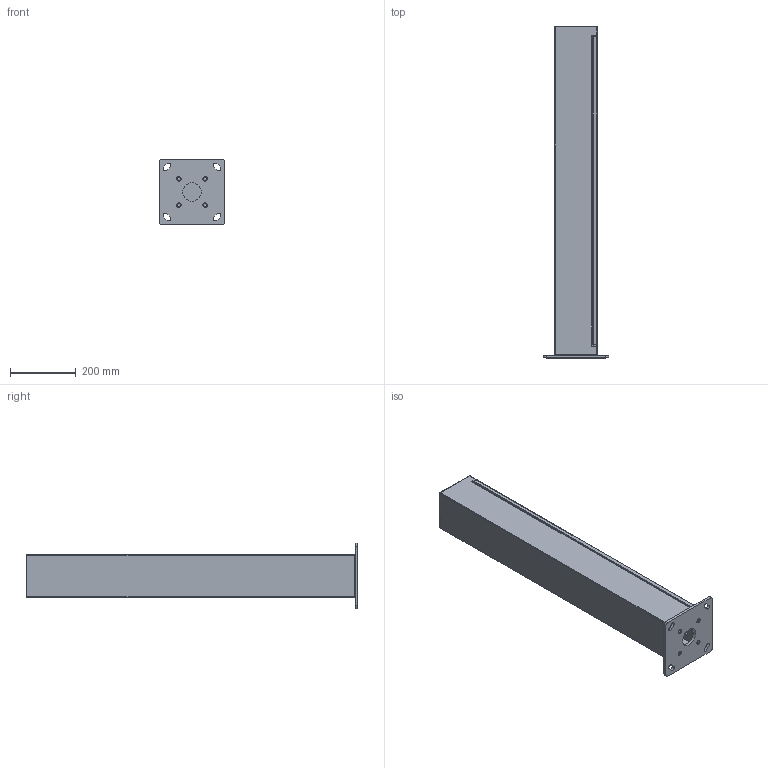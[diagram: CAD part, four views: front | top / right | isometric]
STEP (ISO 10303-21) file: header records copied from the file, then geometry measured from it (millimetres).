
FILE_DESCRIPTION((''),'2;1');
FILE_NAME('ASM_ESCC1640_ASM','2022-12-08T09:35:18',('18682169268'),(''),'CREO PARAMETRIC BY PTC INC, 2019010','CREO PARAMETRIC BY PTC INC, 2019010','');
FILE_SCHEMA(('AUTOMOTIVE_DESIGN { 1 0 10303 214 1 1 1 1 }'));
Length unit declared in the file: millimetre
Products named in the file (5): _ESCC164000; 00; _ESCC16400003; ASM_ESCC1640_ASM
Assembly tree (4 placements, depth 2):
  ASM_ESCC1640_ASM
    _ESCC164000
    00
    _ESCC164000
    _ESCC16400003
Bounding box: 200 x 1008 x 200 mm (x, y, z)
Volume: 1184833.7 mm3; surface area: 1396461 mm2
Topology: 4 solids, 4 shells, 283 faces, 634 edges, 372 vertices
Faces by surface type: cylinder 150, plane 81, sphere 36, cone 8, torus 8
Entity records: 10418 total; most frequent: DIRECTION 1621, CARTESIAN_POINT 1498, ORIENTED_EDGE 1268, EDGE_CURVE 634, AXIS2_PLACEMENT_3D 625, PRESENTATION_STYLE_ASSIGNMENT 546, STYLED_ITEM 546, CURVE_STYLE 543
